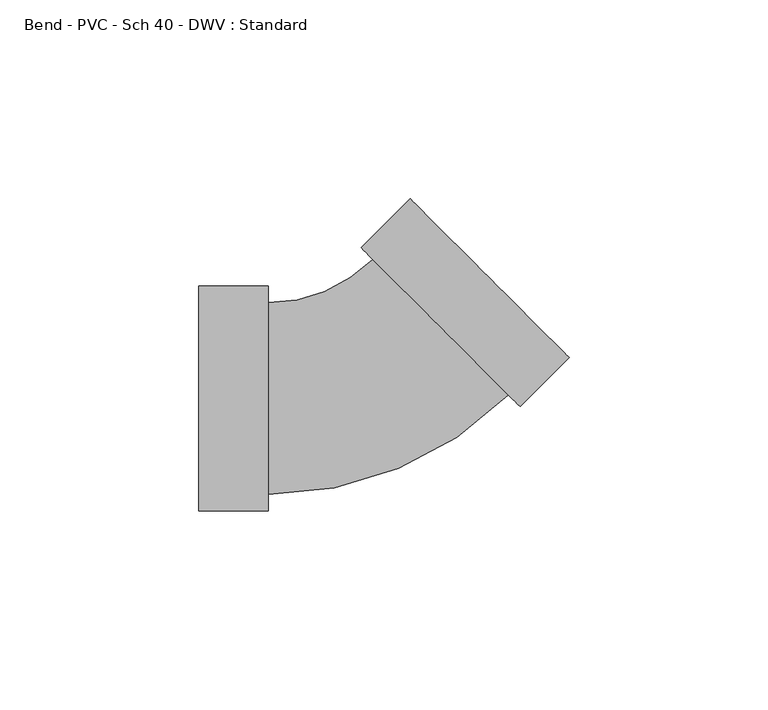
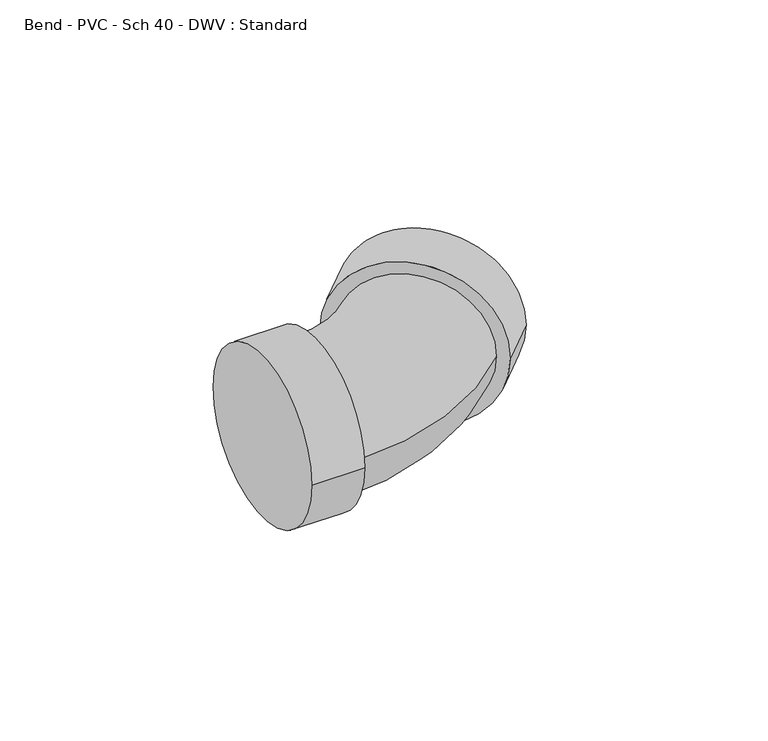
"""IFC4 building model written with IfcOpenShell, lengths in millimetres: pipe fitting geometry, Bend - PVC - Sch 40 - DWV : Standard."""

from ifc_helpers import new_model, si_unit, point, frame, origin, place, context, project, spatial, circle_curve, ellipse_curve, trimmed, source, transform, mapped, element, save
from ifc_brep_helpers import plane_surface, cylinder_surface, revolved_surface, advanced_brep


def bend_pvc_sch_40_dwv_standard_0fc7ae8a(model_context):
    return source(origin(), model_context, "Body", "AdvancedBrep", [
        advanced_brep(
        [(-42.8498, -28.2829, 0.0), (-42.8498, 28.2829, 0.0), (-25.4, -28.2829, 0.0), (-25.4, 28.2829, 0.0), (-25.4, -24.13, 0.0), (-25.4, 24.13, 0.0), (0.8975384, 35.0230114, 0.0), (35.0229864, 0.8985128, 0.0), (37.959571, -2.0379901, 0.0), (-2.0390462, 37.9595143, 0.0), (50.2982712, 10.3010535, 0.0), (10.299654, 50.2985578, 0.0)],
        [
            (0, 1, circle_curve(frame((-42.8498, 0.0, 0.0), z_axis=(-1.0, 0.0, 0.0), x_axis=(0.0, 1.0, 0.0)), 28.2829)),
            (1, 0, circle_curve(frame((-42.8498, 0.0, 0.0), z_axis=(-1.0, 0.0, 0.0), x_axis=(0.0, 1.0, 0.0)), 28.2829)),
            (2, 3, circle_curve(frame((-25.4, 0.0, 0.0), z_axis=(1.0, 0.0, 0.0), x_axis=(0.0, 1.0, 0.0)), 28.2829)),
            (3, 2, circle_curve(frame((-25.4, 0.0, 0.0), z_axis=(1.0, 0.0, 0.0), x_axis=(0.0, 1.0, 0.0)), 28.2829)),
            (4, 5, circle_curve(frame((-25.4, 0.0, 0.0), z_axis=(-1.0, 0.0, 0.0), x_axis=(0.0, 1.0, 0.0)), 24.13)),
            (5, 4, circle_curve(frame((-25.4, 0.0, 0.0), z_axis=(-1.0, 0.0, 0.0), x_axis=(0.0, 1.0, 0.0)), 24.13)),
            (0, 2),
            (3, 1),
            (6, 5, circle_curve(frame((-25.4, 61.3198181, 0.0), z_axis=(0.0, 0.0, -1.0), x_axis=(0.0, -1.0, 0.0)), 37.1898181)),
            (4, 7, circle_curve(frame((-25.4, 61.3198181, 0.0), z_axis=(0.0, 0.0, 1.0), x_axis=(0.0, -1.0, 0.0)), 85.4498181)),
            (7, 6, circle_curve(frame((17.9602624, 17.9607621, 0.0), z_axis=(-0.70709694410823, -0.7071166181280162, 0.0), x_axis=(-0.7071166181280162, 0.70709694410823, 0.0)), 24.13)),
            (6, 7, circle_curve(frame((17.9602624, 17.9607621, 0.0), z_axis=(-0.70709694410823, -0.7071166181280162, 0.0), x_axis=(-0.7071166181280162, 0.70709694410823, 0.0)), 24.13)),
            (8, 9, circle_curve(frame((17.9602624, 17.9607621, 0.0), z_axis=(-0.7070969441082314, -0.7071166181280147, 0.0), x_axis=(-0.7071166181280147, 0.7070969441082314, 0.0)), 28.2829)),
            (9, 8, circle_curve(frame((17.9602624, 17.9607621, 0.0), z_axis=(-0.7070969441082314, -0.7071166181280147, 0.0), x_axis=(-0.7071166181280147, 0.7070969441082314, 0.0)), 28.2829)),
            (10, 11, circle_curve(frame((30.2989626, 30.2998057, 0.0), z_axis=(0.7070969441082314, 0.7071166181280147, 0.0), x_axis=(-0.7071166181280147, 0.7070969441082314, 0.0)), 28.2829)),
            (11, 10, circle_curve(frame((30.2989626, 30.2998057, 0.0), z_axis=(0.7070969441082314, 0.7071166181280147, 0.0), x_axis=(-0.7071166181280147, 0.7070969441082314, 0.0)), 28.2829)),
            (8, 10),
            (11, 9),
        ],
        [
            plane_surface(frame((-42.8498, 0.0, 0.0), z_axis=(-1.0, 0.0, 0.0), x_axis=(0.0, 0.0, 1.0))),
            plane_surface(frame((-25.4, 0.0, 0.0), z_axis=(1.0, 0.0, 0.0), x_axis=(0.0, 0.0, 1.0))),
            cylinder_surface(frame((-42.8498, 0.0, 0.0), z_axis=(-1.0, 0.0, 0.0), x_axis=(0.0, 1.0, 0.0)), 28.2829),
            revolved_surface(trimmed(ellipse_curve(frame((-25.4, 0.0, 0.0), z_axis=(-1.0, 0.0, 0.0), x_axis=(0.0, 1.0, 0.0)), 24.13, 24.13), [point((-25.4, -24.13, 0.0))], [point((-25.4, 24.13, 0.0))], True, "CARTESIAN"), (-25.4, 61.3198181, 0.0), (0.0, 0.0, 1.0)),
            revolved_surface(trimmed(ellipse_curve(frame((-25.4, 0.0, 0.0), z_axis=(-1.0, 0.0, 0.0), x_axis=(0.0, 1.0, 0.0)), 24.13, 24.13), [point((-25.4, 24.13, 0.0))], [point((-25.4, -24.13, 0.0))], True, "CARTESIAN"), (-25.4, 61.3198181, 0.0), (0.0, 0.0, 1.0)),
            plane_surface(frame((17.9602624, 17.9607621, 0.0), z_axis=(-0.7070969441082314, -0.7071166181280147, 0.0), x_axis=(0.0, 0.0, 1.0))),
            plane_surface(frame((30.2989626, 30.2998057, 0.0), z_axis=(0.7070969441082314, 0.7071166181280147, 0.0), x_axis=(0.0, 0.0, 1.0))),
            cylinder_surface(frame((17.9602624, 17.9607621, 0.0), z_axis=(-0.7070969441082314, -0.7071166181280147, 0.0), x_axis=(-0.7071166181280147, 0.7070969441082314, 0.0)), 28.2829),
        ],
        [
            (0, [[1, 2]]),
            (1, [[3, 4], [5, 6]]),
            (2, [[-1, 7, -4, 8]]),
            (2, [[-2, -8, -3, -7]]),
            (3, [[9, -5, 10, 11]]),
            (4, [[-9, 12, -10, -6]]),
            (5, [[13, 14], [-11, -12]]),
            (6, [[15, 16]]),
            (7, [[-13, 17, -16, 18]]),
            (7, [[-14, -18, -15, -17]]),
        ],
    ),
    ])


if __name__ == "__main__":
    model = new_model("IFC4")
    model_context = context("Model", 3, world=origin())
    ifc_project = project(units=[si_unit("LENGTHUNIT", "METRE", prefix="MILLI")], contexts=[model_context])
    site = spatial("IfcSite", under=ifc_project)
    building = spatial("IfcBuilding", under=site)
    placement = place(None, origin())
    bend_pvc_sch_40_dwv_standard_shape = bend_pvc_sch_40_dwv_standard_0fc7ae8a(model_context)
    element("IfcPipeFitting", 1, ObjectType="Bend - PVC - Sch 40 - DWV : Standard", at=placement, inside=building, context=model_context, shape_type="MappedRepresentation", body=[
        mapped(bend_pvc_sch_40_dwv_standard_shape, transform((0.0, 0.0, 0.0), x_axis=(1.0, 0.0, 0.0), y_axis=(0.0, 1.0, 0.0), z_axis=(0.0, 0.0, 1.0))),
    ])
    save(model, "model.ifc")
